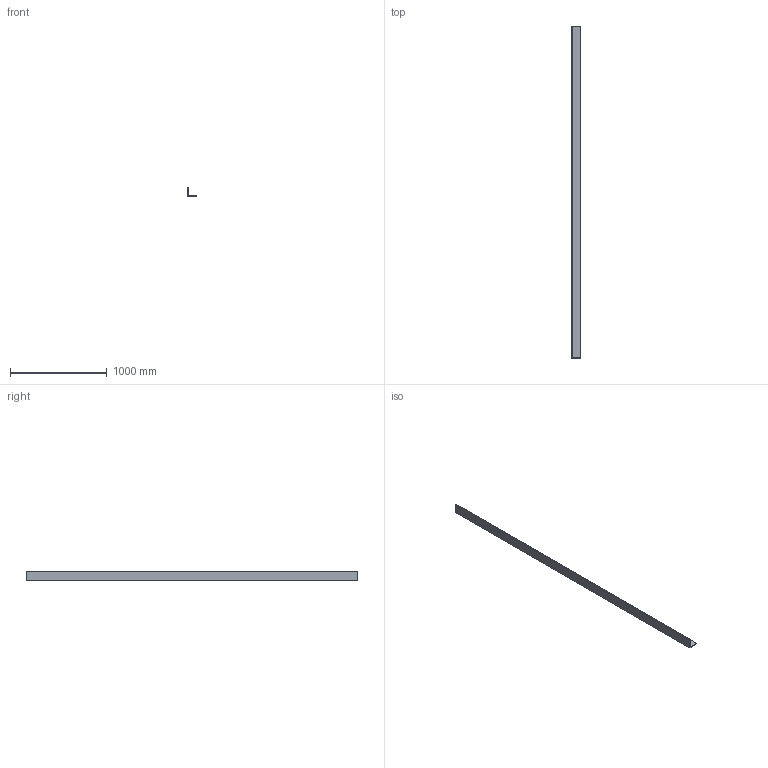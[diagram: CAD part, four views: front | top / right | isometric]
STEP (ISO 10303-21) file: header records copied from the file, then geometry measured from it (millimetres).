
FILE_DESCRIPTION(('Open CASCADE Model'),'2;1');
FILE_NAME('Open CASCADE Shape Model','2026-09-19T12:55:21',('Author'),( 'Open CASCADE'),'Open CASCADE STEP processor 7.9','Open CASCADE 7.9' ,'Unknown');
FILE_SCHEMA(('AUTOMOTIVE_DESIGN { 1 0 10303 214 1 1 1 1 }'));
Length unit declared in the file: millimetre
Products named in the file (1): Open CASCADE STEP translator 7.9 327
Bounding box: 101.6 x 3430 x 101.6 mm (x, y, z)
Volume: 6327507.5 mm3; surface area: 1397641.5 mm2
Topology: 1 solids, 1 shells, 8 faces, 18 edges, 12 vertices
Faces by surface type: plane 8
Entity records: 466 total; most frequent: CARTESIAN_POINT 75, DIRECTION 72, LINE 54, VECTOR 54, ORIENTED_EDGE 36, PCURVE 36, DEFINITIONAL_REPRESENTATION 36, EDGE_CURVE 18
